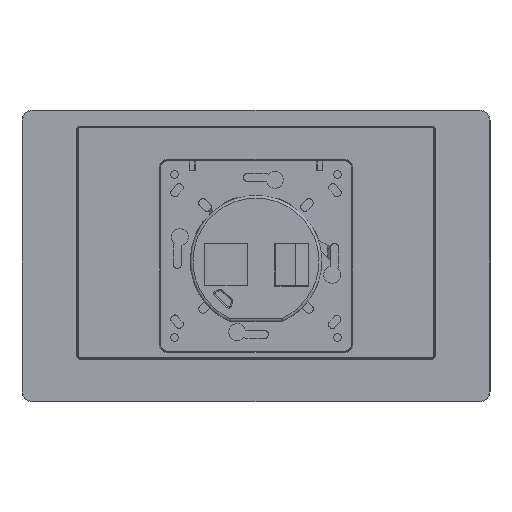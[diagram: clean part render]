
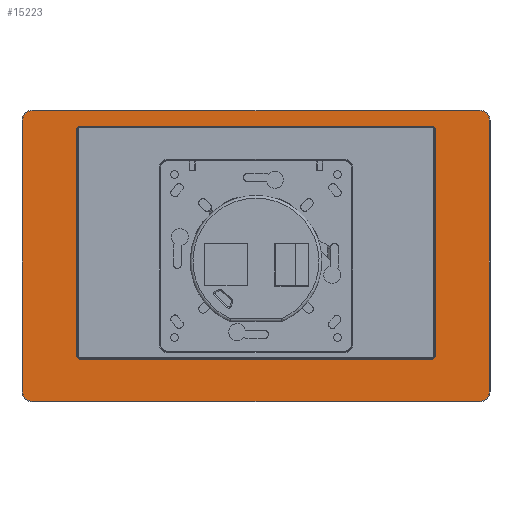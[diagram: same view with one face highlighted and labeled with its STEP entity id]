
A CAD part, top view. The second image highlights one B-rep face of the part: STEP entity #15223.
In plain terms, the highlighted planar face has unit normal (0, 0, 1).
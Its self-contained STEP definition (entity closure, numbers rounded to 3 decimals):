
#568=LINE('',#20560,#1553);
#569=LINE('',#20566,#1554);
#570=LINE('',#20574,#1555);
#571=LINE('',#20582,#1556);
#572=LINE('',#20584,#1557);
#573=LINE('',#20589,#1558);
#574=LINE('',#20593,#1559);
#575=LINE('',#20597,#1560);
#1553=VECTOR('',#17144,1000.);
#1554=VECTOR('',#17153,1000.);
#1555=VECTOR('',#17164,1000.);
#1556=VECTOR('',#17175,1000.);
#1557=VECTOR('',#17178,1000.);
#1558=VECTOR('',#17181,1000.);
#1559=VECTOR('',#17184,1000.);
#1560=VECTOR('',#17187,1000.);
#2622=ORIENTED_EDGE('',*,*,#5997,.T.);
#2623=ORIENTED_EDGE('',*,*,#5996,.T.);
#2624=ORIENTED_EDGE('',*,*,#5993,.T.);
#2625=ORIENTED_EDGE('',*,*,#5991,.T.);
#2626=ORIENTED_EDGE('',*,*,#5989,.T.);
#2627=ORIENTED_EDGE('',*,*,#5988,.T.);
#2628=ORIENTED_EDGE('',*,*,#5986,.T.);
#2629=ORIENTED_EDGE('',*,*,#5984,.T.);
#2630=ORIENTED_EDGE('',*,*,#5998,.T.);
#2631=ORIENTED_EDGE('',*,*,#5999,.T.);
#2632=ORIENTED_EDGE('',*,*,#6000,.T.);
#2633=ORIENTED_EDGE('',*,*,#6001,.T.);
#2634=ORIENTED_EDGE('',*,*,#6002,.T.);
#2635=ORIENTED_EDGE('',*,*,#6003,.T.);
#2636=ORIENTED_EDGE('',*,*,#6004,.T.);
#2637=ORIENTED_EDGE('',*,*,#6005,.T.);
#5984=EDGE_CURVE('',#7678,#7679,#8774,.T.);
#5986=EDGE_CURVE('',#7680,#7678,#568,.T.);
#5988=EDGE_CURVE('',#7681,#7680,#8777,.T.);
#5989=EDGE_CURVE('',#7682,#7681,#569,.T.);
#5991=EDGE_CURVE('',#7683,#7682,#8779,.T.);
#5993=EDGE_CURVE('',#7684,#7683,#570,.T.);
#5996=EDGE_CURVE('',#7685,#7684,#8783,.T.);
#5997=EDGE_CURVE('',#7679,#7685,#571,.T.);
#5998=EDGE_CURVE('',#7686,#7687,#572,.T.);
#5999=EDGE_CURVE('',#7687,#7688,#8784,.F.);
#6000=EDGE_CURVE('',#7688,#7689,#573,.T.);
#6001=EDGE_CURVE('',#7689,#7690,#8785,.F.);
#6002=EDGE_CURVE('',#7690,#7691,#574,.T.);
#6003=EDGE_CURVE('',#7691,#7692,#8786,.F.);
#6004=EDGE_CURVE('',#7692,#7693,#575,.T.);
#6005=EDGE_CURVE('',#7693,#7686,#8787,.F.);
#7678=VERTEX_POINT('',#20553);
#7679=VERTEX_POINT('',#20555);
#7680=VERTEX_POINT('',#20559);
#7681=VERTEX_POINT('',#20563);
#7682=VERTEX_POINT('',#20567);
#7683=VERTEX_POINT('',#20571);
#7684=VERTEX_POINT('',#20575);
#7685=VERTEX_POINT('',#20579);
#7686=VERTEX_POINT('',#20585);
#7687=VERTEX_POINT('',#20586);
#7688=VERTEX_POINT('',#20588);
#7689=VERTEX_POINT('',#20590);
#7690=VERTEX_POINT('',#20592);
#7691=VERTEX_POINT('',#20594);
#7692=VERTEX_POINT('',#20596);
#7693=VERTEX_POINT('',#20598);
#8774=CIRCLE('',#15853,3.8);
#8777=CIRCLE('',#15858,3.8);
#8779=CIRCLE('',#15862,3.8);
#8783=CIRCLE('',#15868,3.8);
#8784=CIRCLE('',#15871,1.2);
#8785=CIRCLE('',#15872,1.2);
#8786=CIRCLE('',#15873,1.2);
#8787=CIRCLE('',#15874,1.2);
#9285=EDGE_LOOP('',(#2622,#2623,#2624,#2625,#2626,#2627,#2628,#2629));
#9286=EDGE_LOOP('',(#2630,#2631,#2632,#2633,#2634,#2635,#2636,#2637));
#9967=FACE_BOUND('',#9285,.T.);
#9968=FACE_BOUND('',#9286,.T.);
#10629=PLANE('',#15870);
#15223=ADVANCED_FACE('',(#9967,#9968),#10629,.T.);
#15853=AXIS2_PLACEMENT_3D('',#20556,#17138,#17139);
#15858=AXIS2_PLACEMENT_3D('',#20564,#17149,#17150);
#15862=AXIS2_PLACEMENT_3D('',#20570,#17158,#17159);
#15868=AXIS2_PLACEMENT_3D('',#20580,#17171,#17172);
#15870=AXIS2_PLACEMENT_3D('',#20583,#17176,#17177);
#15871=AXIS2_PLACEMENT_3D('',#20587,#17179,#17180);
#15872=AXIS2_PLACEMENT_3D('',#20591,#17182,#17183);
#15873=AXIS2_PLACEMENT_3D('',#20595,#17185,#17186);
#15874=AXIS2_PLACEMENT_3D('',#20599,#17188,#17189);
#17138=DIRECTION('',(0.,0.,1.));
#17139=DIRECTION('',(1.,0.,0.));
#17144=DIRECTION('',(1.,0.,0.));
#17149=DIRECTION('',(0.,0.,1.));
#17150=DIRECTION('',(1.,0.,0.));
#17153=DIRECTION('',(0.,-1.,0.));
#17158=DIRECTION('',(0.,0.,1.));
#17159=DIRECTION('',(1.,0.,0.));
#17164=DIRECTION('',(-1.,0.,0.));
#17171=DIRECTION('',(0.,0.,1.));
#17172=DIRECTION('',(1.,0.,0.));
#17175=DIRECTION('',(0.,1.,0.));
#17176=DIRECTION('',(0.,0.,1.));
#17177=DIRECTION('',(1.,0.,0.));
#17178=DIRECTION('',(1.,0.,0.));
#17179=DIRECTION('',(0.,0.,1.));
#17180=DIRECTION('',(1.,0.,0.));
#17181=DIRECTION('',(0.,-1.,0.));
#17182=DIRECTION('',(0.,0.,1.));
#17183=DIRECTION('',(1.,0.,0.));
#17184=DIRECTION('',(-1.,0.,0.));
#17185=DIRECTION('',(0.,0.,1.));
#17186=DIRECTION('',(1.,0.,0.));
#17187=DIRECTION('',(0.,1.,0.));
#17188=DIRECTION('',(0.,0.,1.));
#17189=DIRECTION('',(1.,0.,0.));
#20553=CARTESIAN_POINT('',(85.,-55.3,7.56));
#20555=CARTESIAN_POINT('',(88.8,-51.5,7.56));
#20556=CARTESIAN_POINT('',(85.,-51.5,7.56));
#20559=CARTESIAN_POINT('',(-85.,-55.3,7.56));
#20560=CARTESIAN_POINT('',(85.,-55.3,7.56));
#20563=CARTESIAN_POINT('',(-88.8,-51.5,7.56));
#20564=CARTESIAN_POINT('',(-85.,-51.5,7.56));
#20566=CARTESIAN_POINT('',(-88.8,-51.5,7.56));
#20567=CARTESIAN_POINT('',(-88.8,51.5,7.56));
#20570=CARTESIAN_POINT('',(-85.,51.5,7.56));
#20571=CARTESIAN_POINT('',(-85.,55.3,7.56));
#20574=CARTESIAN_POINT('',(-85.,55.3,7.56));
#20575=CARTESIAN_POINT('',(85.,55.3,7.56));
#20579=CARTESIAN_POINT('',(88.8,51.5,7.56));
#20580=CARTESIAN_POINT('',(85.,51.5,7.56));
#20582=CARTESIAN_POINT('',(88.8,51.5,7.56));
#20583=CARTESIAN_POINT('',(0.,0.,7.56));
#20584=CARTESIAN_POINT('',(0.,49.4,7.56));
#20585=CARTESIAN_POINT('',(-66.9,49.4,7.56));
#20586=CARTESIAN_POINT('',(66.9,49.4,7.56));
#20587=CARTESIAN_POINT('',(66.9,48.2,7.56));
#20588=CARTESIAN_POINT('',(68.1,48.2,7.56));
#20589=CARTESIAN_POINT('',(68.1,0.,7.56));
#20590=CARTESIAN_POINT('',(68.1,-38.,7.56));
#20591=CARTESIAN_POINT('',(66.9,-38.,7.56));
#20592=CARTESIAN_POINT('',(66.9,-39.2,7.56));
#20593=CARTESIAN_POINT('',(0.,-39.2,7.56));
#20594=CARTESIAN_POINT('',(-66.9,-39.2,7.56));
#20595=CARTESIAN_POINT('',(-66.9,-38.,7.56));
#20596=CARTESIAN_POINT('',(-68.1,-38.,7.56));
#20597=CARTESIAN_POINT('',(-68.1,0.,7.56));
#20598=CARTESIAN_POINT('',(-68.1,48.2,7.56));
#20599=CARTESIAN_POINT('',(-66.9,48.2,7.56));
